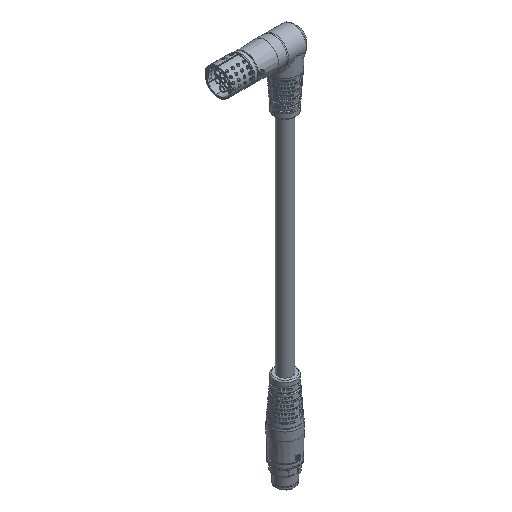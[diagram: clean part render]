
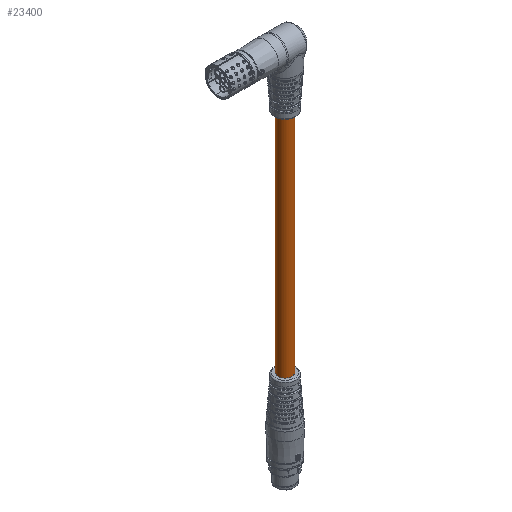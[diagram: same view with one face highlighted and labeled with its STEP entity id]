
A CAD part, isometric view. The second image highlights one B-rep face of the part: STEP entity #23400.
In plain terms, the highlighted cylindrical face has radius 5.55 mm (diameter 11.1 mm), a full revolution.
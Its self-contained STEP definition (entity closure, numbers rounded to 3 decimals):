
#1249 = CARTESIAN_POINT ( 'NONE',  ( 0., 0., -19.793 ) ) ;
#8527 = ORIENTED_EDGE ( 'NONE', *, *, #12560, .F. ) ;
#12003 = DIRECTION ( 'NONE',  ( -0.481, 0.877, 0. ) ) ;
#12560 = EDGE_CURVE ( 'NONE', #57644, #57644, #60481, .T. ) ;
#13389 = CIRCLE ( 'NONE', #45913, 5.55 ) ;
#20605 = DIRECTION ( 'NONE',  ( 0., 0., 1. ) ) ;
#23400 = ADVANCED_FACE ( 'NONE', ( #62346, #33391 ), #48646, .T. ) ;
#32263 = EDGE_CURVE ( 'NONE', #62407, #62407, #13389, .T. ) ;
#33391 = FACE_OUTER_BOUND ( 'NONE', #56507, .T. ) ;
#33451 = CARTESIAN_POINT ( 'NONE',  ( -2.671, 4.865, -19.793 ) ) ;
#33698 = DIRECTION ( 'NONE',  ( -0.481, 0.877, 0. ) ) ;
#34792 = AXIS2_PLACEMENT_3D ( 'NONE', #44197, #58520, #33698 ) ;
#36047 = EDGE_LOOP ( 'NONE', ( #8527 ) ) ;
#36144 = AXIS2_PLACEMENT_3D ( 'NONE', #1249, #20605, #12003 ) ;
#38059 = DIRECTION ( 'NONE',  ( 0., 0., -1. ) ) ;
#43137 = CARTESIAN_POINT ( 'NONE',  ( 0., 0., -204.898 ) ) ;
#44197 = CARTESIAN_POINT ( 'NONE',  ( 0., 0., -23.293 ) ) ;
#45913 = AXIS2_PLACEMENT_3D ( 'NONE', #43137, #38059, #57451 ) ;
#48646 = CYLINDRICAL_SURFACE ( 'NONE', #34792, 5.55 ) ;
#52547 = CARTESIAN_POINT ( 'NONE',  ( 2.671, -4.865, -204.898 ) ) ;
#56507 = EDGE_LOOP ( 'NONE', ( #56840 ) ) ;
#56840 = ORIENTED_EDGE ( 'NONE', *, *, #32263, .F. ) ;
#57451 = DIRECTION ( 'NONE',  ( 0.481, -0.877, 0. ) ) ;
#57644 = VERTEX_POINT ( 'NONE', #33451 ) ;
#58520 = DIRECTION ( 'NONE',  ( 0., 0., 1. ) ) ;
#60481 = CIRCLE ( 'NONE', #36144, 5.55 ) ;
#62346 = FACE_OUTER_BOUND ( 'NONE', #36047, .T. ) ;
#62407 = VERTEX_POINT ( 'NONE', #52547 ) ;
